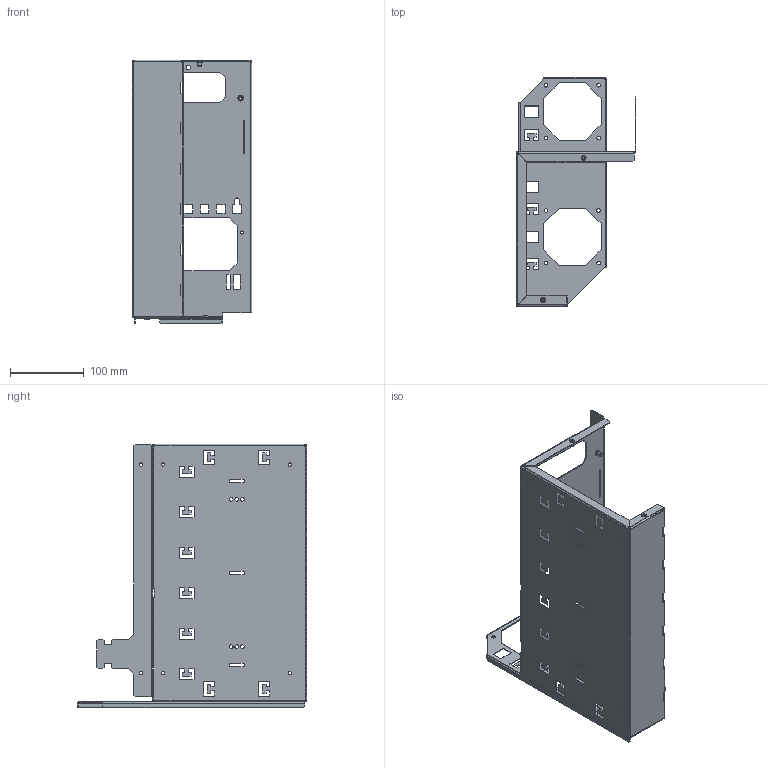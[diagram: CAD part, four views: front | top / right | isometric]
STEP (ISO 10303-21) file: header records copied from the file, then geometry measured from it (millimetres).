
FILE_DESCRIPTION (( 'STEP AP203' ), '1' );
FILE_NAME ('庋.803-5-27.0.0.0.STEP', '2021-03-06T18:24:41', ( '' ), ( '' ), 'SwSTEP 2.0', 'SolidWorks 2016', '' );
FILE_SCHEMA (( 'CONFIG_CONTROL_DESIGN' ));
Length unit declared in the file: millimetre
Products named in the file (5): ÊÍ.803-5_Ðåçüáîâàÿ çàêë¸ïêà-ãàéêà Ì4_M4; 庋.803-5-27.0.0.0; 庋.803-5-27.0.0.1; 庋.803-5-27.0.0.2; ÊÍ.803-5_Çàêë¸ïêà DIN 7337 4õ8_ ST- min (2.1)
Assembly tree (10 placements, depth 2):
  庋.803-5-27.0.0.0
    庋.803-5-27.0.0.1
    庋.803-5-27.0.0.2
    ÊÍ.803-5_Ðåçüáîâàÿ çàêë¸ïêà-ãàéêà Ì4_M4  x4
    ÊÍ.803-5_Çàêë¸ïêà DIN 7337 4õ8_ ST- min (2.1)  x4
Bounding box: 162.5 x 311.5 x 358 mm (x, y, z)
Volume: 185707.9 mm3; surface area: 380143.8 mm2
Topology: 14 solids, 14 shells, 1007 faces, 2749 edges, 1766 vertices
Faces by surface type: plane 755, cylinder 184, bspline 28, torus 24, cone 16
Entity records: 30849 total; most frequent: CARTESIAN_POINT 6017, ORIENTED_EDGE 5114, DIRECTION 4761, EDGE_CURVE 2557, VECTOR 1931, LINE 1931, VERTEX_POINT 1646, AXIS2_PLACEMENT_3D 1415
